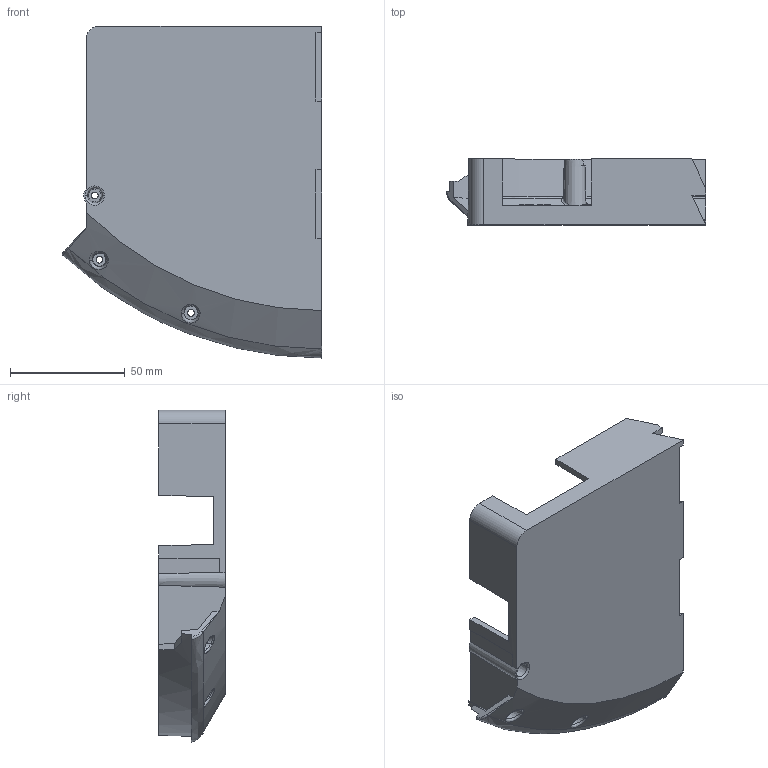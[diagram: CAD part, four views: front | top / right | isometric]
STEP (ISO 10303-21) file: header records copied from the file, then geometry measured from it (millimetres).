
FILE_DESCRIPTION((''),'2;1');
FILE_NAME('C600WITHOUTCASTERRIGHT','2014-09-17T',('areichel'),('iRobot'),'PRO/ENGINEER BY PARAMETRIC TECHNOLOGY CORPORATION, 2014090','PRO/ENGINEER BY PARAMETRIC TECHNOLOGY CORPORATION, 2014090','');
FILE_SCHEMA(('CONFIG_CONTROL_DESIGN'));
Length unit declared in the file: millimetre
Products named in the file (1): C600WITHOUTCASTERRIGHT
Bounding box: 113.16 x 29 x 144.91 mm (x, y, z)
Volume: 53841 mm3; surface area: 44726.5 mm2
Topology: 1 solids, 1 shells, 267 faces, 692 edges, 450 vertices
Faces by surface type: plane 191, cone 44, bspline 15, torus 13, cylinder 3, sphere 1
Entity records: 9957 total; most frequent: CARTESIAN_POINT 3478, ORIENTED_EDGE 1382, DIRECTION 1240, EDGE_CURVE 691, VECTOR 492, LINE 492, VERTEX_POINT 450, AXIS2_PLACEMENT_3D 374
